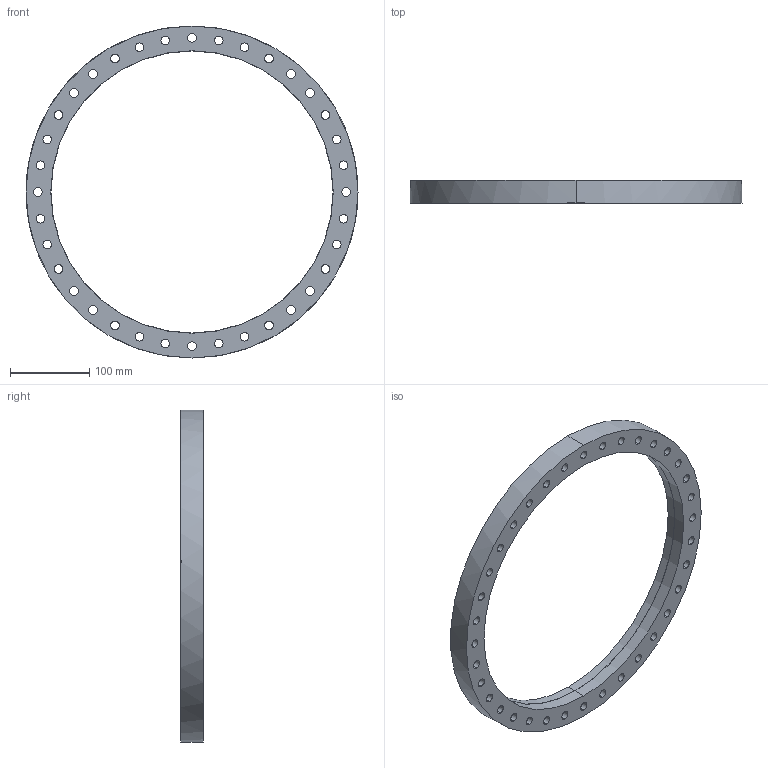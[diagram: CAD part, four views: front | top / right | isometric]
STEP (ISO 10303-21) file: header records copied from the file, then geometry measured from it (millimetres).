
FILE_DESCRIPTION (( 'STEP AP214' ), '1' );
FILE_NAME ('W6CFF350.STEP', '2021-07-09T09:34:50', ( '' ), ( '' ), 'SwSTEP 2.0', 'SolidWorks 2020', '' );
FILE_SCHEMA (( 'AUTOMOTIVE_DESIGN' ));
Length unit declared in the file: millimetre
Products named in the file (1): W6CFF350
Bounding box: 419.1 x 28.5 x 419.1 mm (x, y, z)
Volume: 982606.5 mm3; surface area: 174722.2 mm2
Topology: 1 solids, 1 shells, 102 faces, 282 edges, 185 vertices
Faces by surface type: cylinder 85, plane 7, torus 6, cone 4
Entity records: 3603 total; most frequent: DIRECTION 659, CARTESIAN_POINT 658, ORIENTED_EDGE 564, AXIS2_PLACEMENT_3D 286, EDGE_CURVE 282, VERTEX_POINT 185, CIRCLE 183, EDGE_LOOP 179
